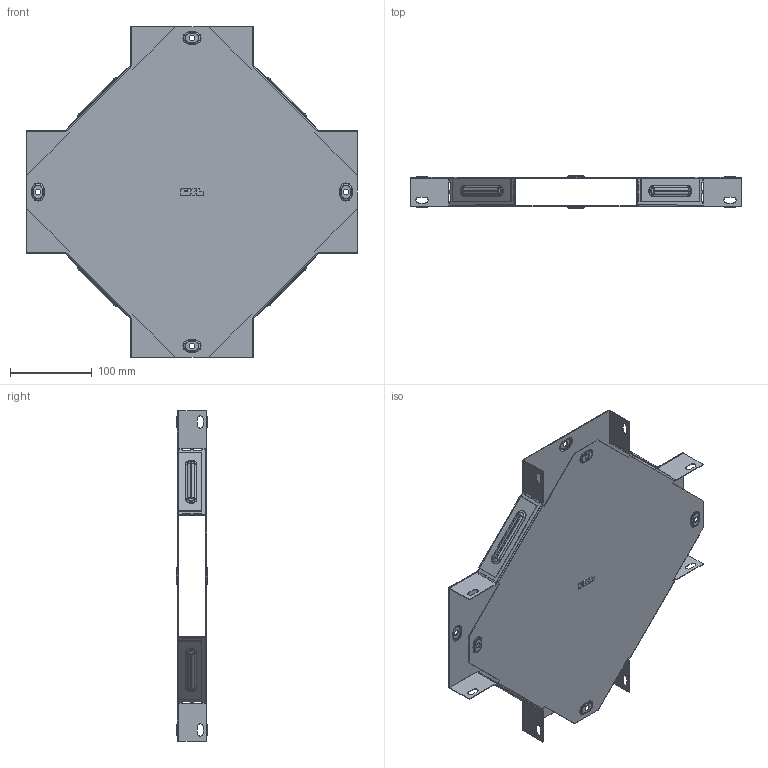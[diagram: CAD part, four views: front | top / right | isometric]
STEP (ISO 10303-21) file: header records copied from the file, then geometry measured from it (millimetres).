
FILE_DESCRIPTION (( 'STEP AP214' ), '1' );
FILE_NAME ('x3515008_捘.STEP', '2019-06-10T07:13:52', ( '砐錪賧瘔蠈錪 Windows' ), ( '' ), 'SwSTEP 2.0', 'SolidWorks 2018', '' );
FILE_SCHEMA (( 'AUTOMOTIVE_DESIGN' ));
Length unit declared in the file: millimetre
Products named in the file (1): x3515008_捘
Bounding box: 405.01 x 38.8 x 405.01 mm (x, y, z)
Volume: 200276.9 mm3; surface area: 504604.6 mm2
Topology: 2 solids, 2 shells, 764 faces, 2100 edges, 1352 vertices
Faces by surface type: plane 374, cylinder 244, torus 128, bspline 18
Entity records: 25235 total; most frequent: CARTESIAN_POINT 5175, DIRECTION 4238, ORIENTED_EDGE 4200, EDGE_CURVE 2100, AXIS2_PLACEMENT_3D 1427, LINE 1384, VECTOR 1384, VERTEX_POINT 1352
